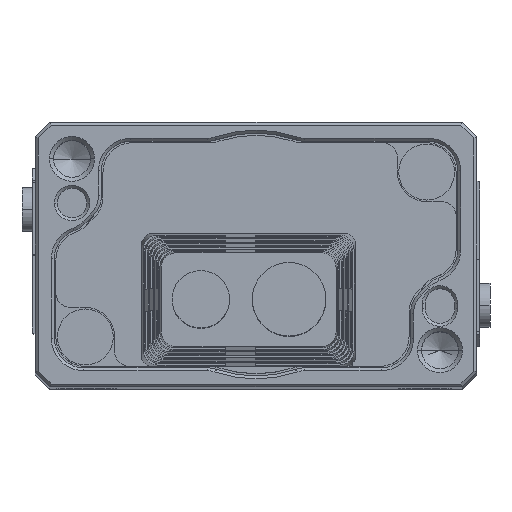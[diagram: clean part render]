
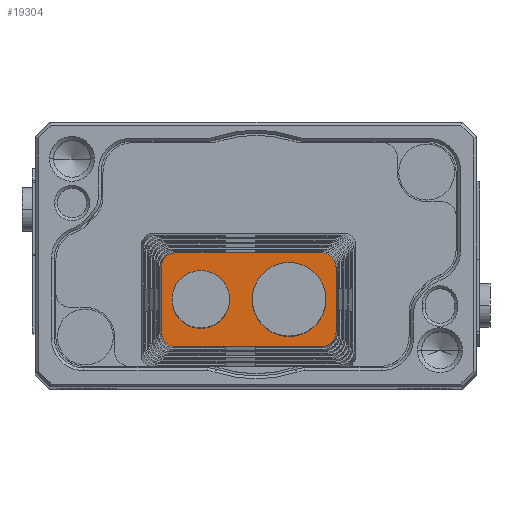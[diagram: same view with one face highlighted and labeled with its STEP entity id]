
A CAD part, top view. The second image highlights one B-rep face of the part: STEP entity #19304.
In plain terms, the highlighted planar face has unit normal (0, 0, 1).
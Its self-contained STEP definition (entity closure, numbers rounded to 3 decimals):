
#23 = DIRECTION ( 'NONE',  ( 0., 0., -1. ) ) ;
#129 = LINE ( 'NONE', #2614, #2843 ) ;
#179 = CARTESIAN_POINT ( 'NONE',  ( -1.484, -0.103, 162.8 ) ) ;
#715 = EDGE_CURVE ( 'NONE', #14548, #6609, #23160, .T. ) ;
#812 = ORIENTED_EDGE ( 'NONE', *, *, #28570, .T. ) ;
#836 = ORIENTED_EDGE ( 'NONE', *, *, #13569, .F. ) ;
#1032 = CARTESIAN_POINT ( 'NONE',  ( -7.422, -6.066, 162.8 ) ) ;
#1506 =( BOUNDED_CURVE ( )  B_SPLINE_CURVE ( 3, ( #2341, #5276, #22747, #31721 ),
 .UNSPECIFIED., .F., .T. ) 
 B_SPLINE_CURVE_WITH_KNOTS ( ( 4, 4 ),
 ( 5.502, 7.065 ),
 .UNSPECIFIED. ) 
 CURVE ( )  GEOMETRIC_REPRESENTATION_ITEM ( )  RATIONAL_B_SPLINE_CURVE ( ( 1., 0.807, 0.807, 1. ) ) 
 REPRESENTATION_ITEM ( '' )  );
#1561 = DIRECTION ( 'NONE',  ( 0., -1., 0. ) ) ;
#1718 = FACE_OUTER_BOUND ( 'NONE', #27359, .T. ) ;
#1900 = FACE_BOUND ( 'NONE', #36076, .T. ) ;
#2040 = ORIENTED_EDGE ( 'NONE', *, *, #13479, .F. ) ;
#2090 = DIRECTION ( 'NONE',  ( 1., 0., 0. ) ) ;
#2341 = CARTESIAN_POINT ( 'NONE',  ( 4.453, -1.099, 162.8 ) ) ;
#2614 = CARTESIAN_POINT ( 'NONE',  ( -7.422, -3.29, 162.8 ) ) ;
#2843 = VECTOR ( 'NONE', #32190, 1000. ) ;
#3165 = ORIENTED_EDGE ( 'NONE', *, *, #25963, .T. ) ;
#3295 = VECTOR ( 'NONE', #1561, 1000. ) ;
#3529 = AXIS2_PLACEMENT_3D ( 'NONE', #33146, #15377, #35817 ) ;
#4116 = EDGE_CURVE ( 'NONE', #25413, #5054, #5935, .T. ) ;
#5054 = VERTEX_POINT ( 'NONE', #37331 ) ;
#5276 = CARTESIAN_POINT ( 'NONE',  ( 4.453, -0.514, 162.8 ) ) ;
#5802 = VERTEX_POINT ( 'NONE', #35223 ) ;
#5839 = EDGE_CURVE ( 'NONE', #28604, #15209, #13673, .T. ) ;
#5935 =( BOUNDED_CURVE ( )  B_SPLINE_CURVE ( 3, ( #24299, #1032, #12640, #6976 ),
 .UNSPECIFIED., .F., .T. ) 
 B_SPLINE_CURVE_WITH_KNOTS ( ( 4, 4 ),
 ( 5.502, 7.065 ),
 .UNSPECIFIED. ) 
 CURVE ( )  GEOMETRIC_REPRESENTATION_ITEM ( )  RATIONAL_B_SPLINE_CURVE ( ( 1., 0.807, 0.807, 1. ) ) 
 REPRESENTATION_ITEM ( '' )  );
#6596 = DIRECTION ( 'NONE',  ( 0., 0., -1. ) ) ;
#6609 = VERTEX_POINT ( 'NONE', #12146 ) ;
#6905 = CARTESIAN_POINT ( 'NONE',  ( -7.422, -1.099, 162.8 ) ) ;
#6912 = VERTEX_POINT ( 'NONE', #26439 ) ;
#6976 = CARTESIAN_POINT ( 'NONE',  ( -6.426, -6.478, 162.8 ) ) ;
#7698 = CARTESIAN_POINT ( 'NONE',  ( 3.457, -6.478, 162.8 ) ) ;
#8178 = CARTESIAN_POINT ( 'NONE',  ( -1.234, -3.29, 162.8 ) ) ;
#9052 = ORIENTED_EDGE ( 'NONE', *, *, #5839, .T. ) ;
#9632 = CARTESIAN_POINT ( 'NONE',  ( 3.766, -3.29, 162.8 ) ) ;
#9739 = ORIENTED_EDGE ( 'NONE', *, *, #32325, .T. ) ;
#10384 = AXIS2_PLACEMENT_3D ( 'NONE', #28641, #23, #31708 ) ;
#11423 = CARTESIAN_POINT ( 'NONE',  ( 4.453, -6.066, 162.8 ) ) ;
#11562 = EDGE_CURVE ( 'NONE', #12283, #23532, #31723, .T. ) ;
#11775 = CARTESIAN_POINT ( 'NONE',  ( -7.422, -0.514, 162.8 ) ) ;
#12146 = CARTESIAN_POINT ( 'NONE',  ( -6.684, -3.29, 162.8 ) ) ;
#12283 = VERTEX_POINT ( 'NONE', #9632 ) ;
#12640 = CARTESIAN_POINT ( 'NONE',  ( -7.01, -6.478, 162.8 ) ) ;
#13479 = EDGE_CURVE ( 'NONE', #33761, #6912, #24840, .T. ) ;
#13547 = PLANE ( 'NONE',  #30085 ) ;
#13569 = EDGE_CURVE ( 'NONE', #35246, #5054, #31693, .T. ) ;
#13673 =( BOUNDED_CURVE ( )  B_SPLINE_CURVE ( 3, ( #37513, #14830, #11775, #29134 ),
 .UNSPECIFIED., .F., .T. ) 
 B_SPLINE_CURVE_WITH_KNOTS ( ( 4, 4 ),
 ( 5.502, 7.065 ),
 .UNSPECIFIED. ) 
 CURVE ( )  GEOMETRIC_REPRESENTATION_ITEM ( )  RATIONAL_B_SPLINE_CURVE ( ( 1., 0.807, 0.807, 1. ) ) 
 REPRESENTATION_ITEM ( '' )  );
#14548 = VERTEX_POINT ( 'NONE', #33757 ) ;
#14830 = CARTESIAN_POINT ( 'NONE',  ( -7.01, -0.103, 162.8 ) ) ;
#15209 = VERTEX_POINT ( 'NONE', #6905 ) ;
#15377 = DIRECTION ( 'NONE',  ( 0., 0., -1. ) ) ;
#15738 = ORIENTED_EDGE ( 'NONE', *, *, #4116, .T. ) ;
#15824 = EDGE_LOOP ( 'NONE', ( #26904, #9739 ) ) ;
#16116 = ORIENTED_EDGE ( 'NONE', *, *, #29713, .T. ) ;
#16179 = CARTESIAN_POINT ( 'NONE',  ( -7.422, -5.482, 162.8 ) ) ;
#16229 = DIRECTION ( 'NONE',  ( 1., 0., 0. ) ) ;
#16553 = CARTESIAN_POINT ( 'NONE',  ( -1.484, -3.29, 162.8 ) ) ;
#16751 = ORIENTED_EDGE ( 'NONE', *, *, #11562, .T. ) ;
#16820 = DIRECTION ( 'NONE',  ( 0., 0., -1. ) ) ;
#17152 = CARTESIAN_POINT ( 'NONE',  ( -1.484, -6.478, 162.8 ) ) ;
#17336 = LINE ( 'NONE', #179, #26292 ) ;
#17903 = DIRECTION ( 'NONE',  ( -1., 0., 0. ) ) ;
#19304 = ADVANCED_FACE ( 'NONE', ( #33571, #1900, #1718 ), #13547, .F. ) ;
#19355 = CIRCLE ( 'NONE', #3529, 1.95 ) ;
#20382 = CARTESIAN_POINT ( 'NONE',  ( 4.041, -6.478, 162.8 ) ) ;
#20925 = EDGE_CURVE ( 'NONE', #5802, #28604, #17336, .T. ) ;
#21834 = CARTESIAN_POINT ( 'NONE',  ( -6.426, -0.103, 162.8 ) ) ;
#22747 = CARTESIAN_POINT ( 'NONE',  ( 4.041, -0.103, 162.8 ) ) ;
#23069 = CARTESIAN_POINT ( 'NONE',  ( 4.453, -5.482, 162.8 ) ) ;
#23160 = CIRCLE ( 'NONE', #10384, 1.95 ) ;
#23532 = VERTEX_POINT ( 'NONE', #8178 ) ;
#24299 = CARTESIAN_POINT ( 'NONE',  ( -7.422, -5.482, 162.8 ) ) ;
#24526 = AXIS2_PLACEMENT_3D ( 'NONE', #29048, #6596, #26948 ) ;
#24840 = LINE ( 'NONE', #33984, #3295 ) ;
#25413 = VERTEX_POINT ( 'NONE', #16179 ) ;
#25963 = EDGE_CURVE ( 'NONE', #33761, #5802, #1506, .T. ) ;
#26292 = VECTOR ( 'NONE', #17903, 1000. ) ;
#26439 = CARTESIAN_POINT ( 'NONE',  ( 4.453, -5.482, 162.8 ) ) ;
#26598 =( BOUNDED_CURVE ( )  B_SPLINE_CURVE ( 3, ( #37704, #20382, #11423, #23069 ),
 .UNSPECIFIED., .F., .T. ) 
 B_SPLINE_CURVE_WITH_KNOTS ( ( 4, 4 ),
 ( 5.502, 7.065 ),
 .UNSPECIFIED. ) 
 CURVE ( )  GEOMETRIC_REPRESENTATION_ITEM ( )  RATIONAL_B_SPLINE_CURVE ( ( 1., 0.807, 0.807, 1. ) ) 
 REPRESENTATION_ITEM ( '' )  );
#26904 = ORIENTED_EDGE ( 'NONE', *, *, #715, .T. ) ;
#26948 = DIRECTION ( 'NONE',  ( 1., 0., 0. ) ) ;
#27359 = EDGE_LOOP ( 'NONE', ( #2040, #3165, #34946, #9052, #29514, #15738, #836, #812 ) ) ;
#27503 = CIRCLE ( 'NONE', #24526, 2.5 ) ;
#28222 = DIRECTION ( 'NONE',  ( 0., 0., -1. ) ) ;
#28287 = CARTESIAN_POINT ( 'NONE',  ( 1.266, -3.29, 162.8 ) ) ;
#28570 = EDGE_CURVE ( 'NONE', #35246, #6912, #26598, .T. ) ;
#28604 = VERTEX_POINT ( 'NONE', #21834 ) ;
#28641 = CARTESIAN_POINT ( 'NONE',  ( -4.734, -3.29, 162.8 ) ) ;
#29048 = CARTESIAN_POINT ( 'NONE',  ( 1.266, -3.29, 162.8 ) ) ;
#29134 = CARTESIAN_POINT ( 'NONE',  ( -7.422, -1.099, 162.8 ) ) ;
#29514 = ORIENTED_EDGE ( 'NONE', *, *, #31853, .T. ) ;
#29713 = EDGE_CURVE ( 'NONE', #23532, #12283, #27503, .T. ) ;
#30085 = AXIS2_PLACEMENT_3D ( 'NONE', #16553, #28222, #2090 ) ;
#31693 = LINE ( 'NONE', #17152, #36146 ) ;
#31708 = DIRECTION ( 'NONE',  ( 1., 0., 0. ) ) ;
#31721 = CARTESIAN_POINT ( 'NONE',  ( 3.457, -0.103, 162.8 ) ) ;
#31723 = CIRCLE ( 'NONE', #32908, 2.5 ) ;
#31853 = EDGE_CURVE ( 'NONE', #15209, #25413, #129, .T. ) ;
#32087 = DIRECTION ( 'NONE',  ( -1., 0., 0. ) ) ;
#32190 = DIRECTION ( 'NONE',  ( 0., -1., 0. ) ) ;
#32325 = EDGE_CURVE ( 'NONE', #6609, #14548, #19355, .T. ) ;
#32833 = CARTESIAN_POINT ( 'NONE',  ( 4.453, -1.099, 162.8 ) ) ;
#32908 = AXIS2_PLACEMENT_3D ( 'NONE', #28287, #16820, #16229 ) ;
#33146 = CARTESIAN_POINT ( 'NONE',  ( -4.734, -3.29, 162.8 ) ) ;
#33571 = FACE_BOUND ( 'NONE', #15824, .T. ) ;
#33757 = CARTESIAN_POINT ( 'NONE',  ( -2.784, -3.29, 162.8 ) ) ;
#33761 = VERTEX_POINT ( 'NONE', #32833 ) ;
#33984 = CARTESIAN_POINT ( 'NONE',  ( 4.453, -3.29, 162.8 ) ) ;
#34946 = ORIENTED_EDGE ( 'NONE', *, *, #20925, .T. ) ;
#35223 = CARTESIAN_POINT ( 'NONE',  ( 3.457, -0.103, 162.8 ) ) ;
#35246 = VERTEX_POINT ( 'NONE', #7698 ) ;
#35817 = DIRECTION ( 'NONE',  ( 1., 0., 0. ) ) ;
#36076 = EDGE_LOOP ( 'NONE', ( #16751, #16116 ) ) ;
#36146 = VECTOR ( 'NONE', #32087, 1000. ) ;
#37331 = CARTESIAN_POINT ( 'NONE',  ( -6.426, -6.478, 162.8 ) ) ;
#37513 = CARTESIAN_POINT ( 'NONE',  ( -6.426, -0.103, 162.8 ) ) ;
#37704 = CARTESIAN_POINT ( 'NONE',  ( 3.457, -6.478, 162.8 ) ) ;
